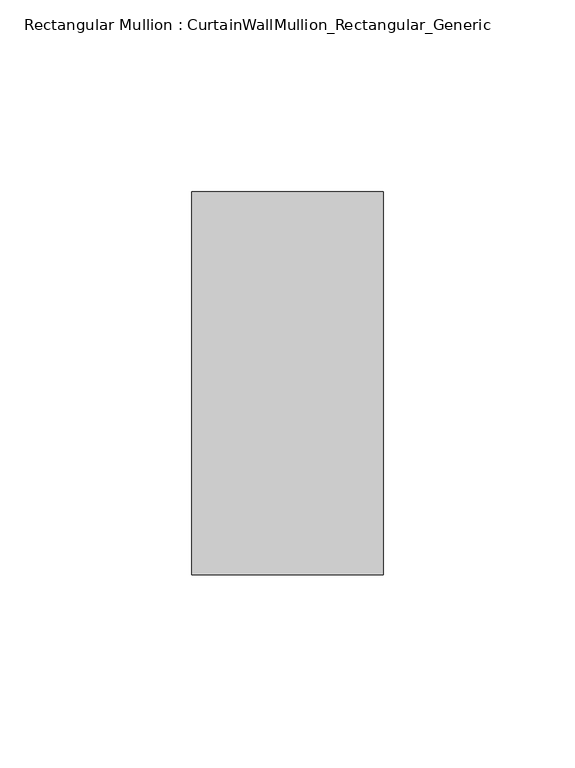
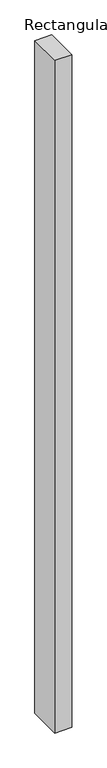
"""IFC4 building model written with IfcOpenShell, lengths in millimetres: member geometry, Rectangular Mullion : CurtainWallMullion_Rectangular_Generic."""

from ifc_helpers import new_model, si_unit, frame, origin, place, context, project, spatial, polyline, outline, extrude, source, transform, mapped, element, save


def rectangular_mullion_curtainwallmullion_rectangular_generic_974284e1(model_context):
    return source(origin(), model_context, "Body", "SweptSolid", [
        extrude(outline(polyline([(25.0, 50.0), (25.0, -50.0), (-25.0, -50.0), (-25.0, 50.0), (25.0, 50.0)])), frame((0.0, 0.0, -2082.0000002), z_axis=(0.0, 0.0, 1.0), x_axis=(1.0, 0.0, 0.0)), (0.0, 0.0, 1.0), 2082.0000002),
    ])


if __name__ == "__main__":
    model = new_model("IFC4")
    model_context = context("Model", 3, world=origin())
    ifc_project = project(units=[si_unit("LENGTHUNIT", "METRE", prefix="MILLI")], contexts=[model_context])
    site = spatial("IfcSite", under=ifc_project)
    building = spatial("IfcBuilding", under=site)
    placement = place(None, origin())
    rectangular_mullion_curtainwallmullion_rectangular_generic_shape = rectangular_mullion_curtainwallmullion_rectangular_generic_974284e1(model_context)
    element("IfcMember", 1, ObjectType="Rectangular Mullion : CurtainWallMullion_Rectangular_Generic", at=placement, inside=building, context=model_context, shape_type="MappedRepresentation", body=[
        mapped(rectangular_mullion_curtainwallmullion_rectangular_generic_shape, transform((0.0, 0.0, 0.0), x_axis=(1.0, 0.0, 0.0), y_axis=(0.0, 1.0, 0.0), z_axis=(0.0, 0.0, 1.0))),
    ])
    save(model, "model.ifc")
